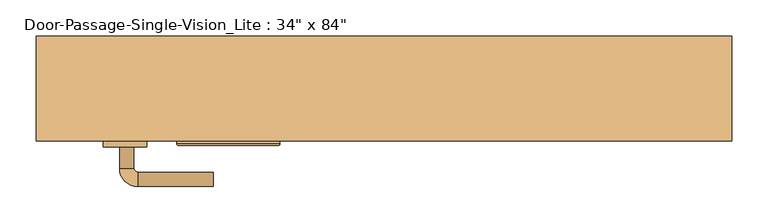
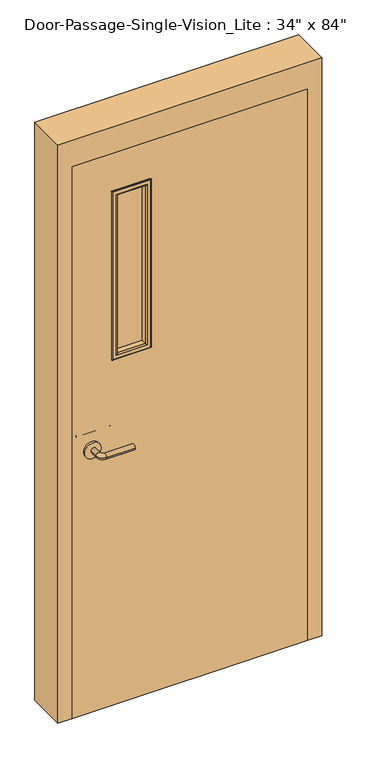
"""IFC4 building model written with IfcOpenShell, lengths in millimetres: door geometry."""

from ifc_helpers import new_model, si_unit, point, frame, frame_2d, origin, place, context, project, spatial, polyline, circle_curve, ellipse_curve, trimmed, segment, composite_curve, outline, extrude, faceted_brep, source, transform, mapped, element, save
from ifc_brep_helpers import plane_surface, cylinder_surface, revolved_surface, advanced_brep


def door_3e703145(model_context):
    return source(origin(), model_context, "Body", "SolidModel", [
        advanced_brep(
        [(-366.790625, -30.1, 1016.0), (-346.790625, -30.1, 1016.0), (-366.790625, -0.1, 1016.0), (-346.790625, -0.1, 1016.0), (-341.790625, 4.9, 1016.0), (-341.790625, 24.9, 1016.0), (-236.790625, 24.9, 1016.0), (-236.790625, 4.9, 1016.0)],
        [
            (0, 1, circle_curve(frame((-356.790625, -30.1, 1016.0), z_axis=(0.0, -1.0, 0.0), x_axis=(1.0, 0.0, 0.0)), 10.0)),
            (1, 0, circle_curve(frame((-356.790625, -30.1, 1016.0), z_axis=(0.0, -1.0, 0.0), x_axis=(1.0, 0.0, 0.0)), 10.0)),
            (0, 2),
            (2, 3, circle_curve(frame((-356.790625, -0.1, 1016.0), z_axis=(0.0, -1.0, 0.0), x_axis=(1.0, 0.0, 0.0)), 10.0)),
            (3, 1),
            (3, 2, circle_curve(frame((-356.790625, -0.1, 1016.0), z_axis=(0.0, -1.0, 0.0), x_axis=(1.0, 0.0, 0.0)), 10.0)),
            (4, 3, circle_curve(frame((-341.790625, -0.1, 1016.0), z_axis=(0.0, 0.0, 1.0), x_axis=(-1.0, 0.0, 0.0)), 5.0)),
            (2, 5, circle_curve(frame((-341.790625, -0.1, 1016.0), z_axis=(0.0, 0.0, -1.0), x_axis=(-1.0, 0.0, 0.0)), 25.0)),
            (5, 4, circle_curve(frame((-341.790625, 14.9, 1016.0), z_axis=(-1.0, 0.0, 0.0), x_axis=(0.0, -1.0, 0.0)), 10.0)),
            (4, 5, circle_curve(frame((-341.790625, 14.9, 1016.0), z_axis=(-1.0, 0.0, 0.0), x_axis=(0.0, -1.0, 0.0)), 10.0)),
            (6, 7, circle_curve(frame((-236.790625, 14.9, 1016.0), z_axis=(1.0, 0.0, 0.0), x_axis=(0.0, -1.0, 0.0)), 10.0)),
            (7, 6, circle_curve(frame((-236.790625, 14.9, 1016.0), z_axis=(1.0, 0.0, 0.0), x_axis=(0.0, -1.0, 0.0)), 10.0)),
            (5, 6),
            (7, 4),
        ],
        [
            plane_surface(frame((-356.790625, -30.1, 1016.0), z_axis=(0.0, -1.0, 0.0), x_axis=(0.0, 0.0, 1.0))),
            cylinder_surface(frame((-356.790625, -30.1, 1016.0), z_axis=(0.0, -1.0, 0.0), x_axis=(1.0, 0.0, 0.0)), 10.0),
            revolved_surface(trimmed(ellipse_curve(frame((-356.790625, -0.1, 1016.0), z_axis=(0.0, -1.0, 0.0), x_axis=(1.0, 0.0, 0.0)), 10.0, 10.0), [point((-366.790625, -0.1, 1016.0))], [point((-346.790625, -0.1, 1016.0))], True, "CARTESIAN"), (-341.790625, -0.1, 1016.0), (0.0, 0.0, -1.0)),
            revolved_surface(trimmed(ellipse_curve(frame((-356.790625, -0.1, 1016.0), z_axis=(0.0, -1.0, 0.0), x_axis=(1.0, 0.0, 0.0)), 10.0, 10.0), [point((-346.790625, -0.1, 1016.0))], [point((-366.790625, -0.1, 1016.0))], True, "CARTESIAN"), (-341.790625, -0.1, 1016.0), (0.0, 0.0, -1.0)),
            plane_surface(frame((-236.790625, 14.9, 1016.0), z_axis=(1.0, 0.0, 0.0), x_axis=(0.0, 0.0, 1.0))),
            cylinder_surface(frame((-341.790625, 14.9, 1016.0), z_axis=(-1.0, 0.0, 0.0), x_axis=(0.0, -1.0, 0.0)), 10.0),
        ],
        [
            (0, [[1, 2]]),
            (1, [[-1, 3, 4, 5]]),
            (1, [[-2, -5, 6, -3]]),
            (2, [[7, -4, 8, 9]]),
            (3, [[-8, -6, -7, 10]]),
            (4, [[11, 12]]),
            (5, [[-9, 13, -12, 14]]),
            (5, [[-10, -14, -11, -13]]),
        ],
    ),
        extrude(outline(composite_curve([segment(trimmed(circle_curve(frame_2d((1016.0, -359.290625)), 30.0), [point((1016.0, -389.290625))], [point((1016.0, -329.290625))], False, "CARTESIAN"), True, "CONTINUOUS"), segment(trimmed(circle_curve(frame_2d((1016.0, -359.290625)), 30.0), [point((1016.0, -329.290625))], [point((1016.0, -389.290625))], False, "CARTESIAN"), True, "CONTINUOUS")], self_intersect=False)), frame((0.0, -38.1, 0.0), z_axis=(0.0, 1.0, 0.0), x_axis=(0.0, 0.0, 1.0)), (0.0, 0.0, 1.0), 8.0),
        advanced_brep(
        [(-366.790625, -90.55, 1016.0), (-346.790625, -90.55, 1016.0), (-346.790625, -120.55, 1016.0), (-366.790625, -120.55, 1016.0), (-341.790625, -125.55, 1016.0), (-341.790625, -145.55, 1016.0), (-236.790625, -145.55, 1016.0), (-236.790625, -125.55, 1016.0)],
        [
            (0, 1, circle_curve(frame((-356.790625, -90.55, 1016.0), z_axis=(0.0, 1.0, 0.0), x_axis=(1.0, 0.0, 0.0)), 10.0)),
            (1, 0, circle_curve(frame((-356.790625, -90.55, 1016.0), z_axis=(0.0, 1.0, 0.0), x_axis=(1.0, 0.0, 0.0)), 10.0)),
            (1, 2),
            (2, 3, circle_curve(frame((-356.790625, -120.55, 1016.0), z_axis=(0.0, 1.0, 0.0), x_axis=(1.0, 0.0, 0.0)), 10.0)),
            (3, 0),
            (3, 2, circle_curve(frame((-356.790625, -120.55, 1016.0), z_axis=(0.0, 1.0, 0.0), x_axis=(1.0, 0.0, 0.0)), 10.0)),
            (4, 5, circle_curve(frame((-341.790625, -135.55, 1016.0), z_axis=(-1.0, 0.0, 0.0), x_axis=(0.0, 1.0, 0.0)), 10.0)),
            (5, 3, circle_curve(frame((-341.790625, -120.55, 1016.0), z_axis=(0.0, 0.0, -1.0), x_axis=(-1.0, 0.0, 0.0)), 25.0)),
            (2, 4, circle_curve(frame((-341.790625, -120.55, 1016.0), z_axis=(0.0, 0.0, 1.0), x_axis=(-1.0, 0.0, 0.0)), 5.0)),
            (5, 4, circle_curve(frame((-341.790625, -135.55, 1016.0), z_axis=(-1.0, 0.0, 0.0), x_axis=(0.0, 1.0, 0.0)), 10.0)),
            (6, 7, circle_curve(frame((-236.790625, -135.55, 1016.0), z_axis=(1.0, 0.0, 0.0), x_axis=(0.0, 1.0, 0.0)), 10.0)),
            (7, 6, circle_curve(frame((-236.790625, -135.55, 1016.0), z_axis=(1.0, 0.0, 0.0), x_axis=(0.0, 1.0, 0.0)), 10.0)),
            (4, 7),
            (6, 5),
        ],
        [
            plane_surface(frame((-356.790625, -90.55, 1016.0), z_axis=(0.0, 1.0, 0.0), x_axis=(0.0, 0.0, 1.0))),
            cylinder_surface(frame((-356.790625, -90.55, 1016.0), z_axis=(0.0, 1.0, 0.0), x_axis=(1.0, 0.0, 0.0)), 10.0),
            revolved_surface(trimmed(ellipse_curve(frame((-356.790625, -120.55, 1016.0), z_axis=(0.0, -1.0, 0.0), x_axis=(1.0, 0.0, 0.0)), 10.0, 10.0), [point((-366.790625, -120.55, 1016.0))], [point((-346.790625, -120.55, 1016.0))], True, "CARTESIAN"), (-341.790625, -120.55, 1016.0), (0.0, 0.0, -1.0)),
            revolved_surface(trimmed(ellipse_curve(frame((-356.790625, -120.55, 1016.0), z_axis=(0.0, -1.0, 0.0), x_axis=(1.0, 0.0, 0.0)), 10.0, 10.0), [point((-346.790625, -120.55, 1016.0))], [point((-366.790625, -120.55, 1016.0))], True, "CARTESIAN"), (-341.790625, -120.55, 1016.0), (0.0, 0.0, -1.0)),
            plane_surface(frame((-236.790625, -135.55, 1016.0), z_axis=(1.0, 0.0, 0.0), x_axis=(0.0, 0.0, 1.0))),
            cylinder_surface(frame((-341.790625, -135.55, 1016.0), z_axis=(-1.0, 0.0, 0.0), x_axis=(0.0, 1.0, 0.0)), 10.0),
        ],
        [
            (0, [[1, 2]]),
            (1, [[3, 4, 5, -2]]),
            (1, [[-5, 6, -3, -1]]),
            (2, [[7, 8, -4, 9]]),
            (3, [[10, -9, -6, -8]]),
            (4, [[11, 12]]),
            (5, [[13, -11, 14, -7]]),
            (5, [[-14, -12, -13, -10]]),
        ],
    ),
        extrude(outline(composite_curve([segment(trimmed(circle_curve(frame_2d((1016.0, -359.290625)), 30.0), [point((1016.0, -389.290625))], [point((1016.0, -329.290625))], False, "CARTESIAN"), True, "CONTINUOUS"), segment(trimmed(circle_curve(frame_2d((1016.0, -359.290625)), 30.0), [point((1016.0, -329.290625))], [point((1016.0, -389.290625))], False, "CARTESIAN"), True, "CONTINUOUS")], self_intersect=False)), frame((0.0, -90.55, 0.0), z_axis=(0.0, 1.0, 0.0), x_axis=(0.0, 0.0, 1.0)), (0.0, 0.0, 1.0), 8.0),
        faceted_brep([(431.8, -33.3375, 0.0), (415.925, -33.3375, 0.0), (415.925, 14.2875, 0.0), (431.8, 14.2875, 0.0), (431.8, 63.5, 0.0), (482.6, 63.5, 0.0), (482.6, -82.55, 0.0), (431.8, -82.55, 0.0), (431.8, -82.55, 2133.6), (431.8, -33.3375, 2133.6), (482.6, -82.55, 2235.2), (-482.6, -82.55, 2235.2), (-482.6, -82.55, 0.0), (-431.8, -82.55, 0.0), (-431.8, -82.55, 2133.6), (482.6, 63.5, 2235.2), (431.8, 63.5, 2133.6), (-431.8, 63.5, 2133.6), (-431.8, 63.5, 0.0), (-482.6, 63.5, 0.0), (-482.6, 63.5, 2235.2), (431.8, 14.2875, 2133.6), (415.925, 14.2875, 2117.725), (-415.925, 14.2875, 2117.725), (-415.925, 14.2875, 0.0), (-431.8, 14.2875, 0.0), (-431.8, 14.2875, 2133.6), (415.925, -33.3375, 2117.725), (-431.8, -33.3375, 2133.6), (-431.8, -33.3375, 0.0), (-415.925, -33.3375, 0.0), (-415.925, -33.3375, 2117.725)], [[[0, 1, 2, 3, 4, 5, 6, 7]], [[7, 8, 9, 0]], [[6, 10, 11, 12, 13, 14, 8, 7]], [[5, 15, 10, 6]], [[4, 16, 17, 18, 19, 20, 15, 5]], [[3, 21, 16, 4]], [[2, 22, 23, 24, 25, 26, 21, 3]], [[1, 27, 22, 2]], [[0, 9, 28, 29, 30, 31, 27, 1]], [[8, 14, 28, 9]], [[16, 21, 26, 17]], [[22, 27, 31, 23]], [[12, 19, 18, 25, 24, 30, 29, 13]], [[13, 29, 28, 14]], [[11, 20, 19, 12]], [[17, 26, 25, 18]], [[23, 31, 30, 24]], [[15, 20, 11, 10]]]),
        extrude(outline(polyline([(2133.6, -431.8), (0.0, -431.8), (0.0, 431.8), (2133.6, 431.8), (2133.6, -431.8)]), holes=[polyline([(1981.2, -279.4), (1981.2, -152.4), (1346.2, -152.4), (1346.2, -279.4), (1981.2, -279.4)])]), frame((0.0, -82.55, 0.0), z_axis=(0.0, 1.0, 0.0), x_axis=(0.0, 0.0, 1.0)), (0.0, 0.0, 1.0), 44.45),
        extrude(outline(polyline([(-152.4, -57.15), (-152.4, -63.5), (-279.4, -63.5), (-279.4, -57.15), (-152.4, -57.15)])), frame((0.0, 0.0, 1346.2), z_axis=(0.0, 0.0, 1.0), x_axis=(1.0, 0.0, 0.0)), (0.0, 0.0, 1.0), 635.0),
        advanced_brep(
        [(-279.4, -57.15, 1346.2), (-279.4, -57.15, 1981.2), (-279.4, -38.1, 1981.2), (-279.4, -38.1, 1346.2), (-267.4, -37.1, 1358.2), (-267.4, -37.1, 1969.2), (-267.4, -57.15, 1969.2), (-267.4, -57.15, 1358.2), (-272.4, -32.1, 1353.2), (-272.4, -32.1, 1974.2), (-287.4, -34.1, 1338.2), (-287.4, -34.1, 1989.2), (-285.4, -32.1, 1987.2), (-285.4, -32.1, 1340.2), (-287.4, -38.1, 1338.2), (-287.4, -38.1, 1989.2), (-152.4, -57.15, 1981.2), (-152.4, -38.1, 1981.2), (-164.4, -37.1, 1969.2), (-164.4, -57.15, 1969.2), (-159.4, -32.1, 1974.2), (-144.4, -34.1, 1989.2), (-146.4, -32.1, 1987.2), (-144.4, -38.1, 1989.2), (-152.4, -57.15, 1346.2), (-152.4, -38.1, 1346.2), (-164.4, -37.1, 1358.2), (-164.4, -57.15, 1358.2), (-159.4, -32.1, 1353.2), (-144.4, -34.1, 1338.2), (-146.4, -32.1, 1340.2), (-144.4, -38.1, 1338.2)],
        [
            (0, 1),
            (1, 2),
            (2, 3),
            (3, 0),
            (4, 5),
            (5, 6),
            (6, 7),
            (7, 4),
            (8, 9),
            (9, 5, ellipse_curve(frame((-272.4, -37.1, 1974.2), z_axis=(-0.7071067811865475, 0.0, -0.7071067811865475), x_axis=(0.7071067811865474, 0.0, -0.7071067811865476)), 7.0710678, 5.0)),
            (4, 8, ellipse_curve(frame((-272.4, -37.1, 1353.2), z_axis=(-0.7071067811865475, 0.0, 0.7071067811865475), x_axis=(-0.7071067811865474, 0.0, -0.7071067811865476)), 7.0710678, 5.0)),
            (10, 11),
            (11, 12, ellipse_curve(frame((-285.4, -34.1, 1987.2), z_axis=(-0.7071067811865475, 0.0, -0.7071067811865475), x_axis=(0.7071067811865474, 0.0, -0.7071067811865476)), 2.8284271, 2.0)),
            (12, 13),
            (13, 10, ellipse_curve(frame((-285.4, -34.1, 1340.2), z_axis=(-0.7071067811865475, 0.0, 0.7071067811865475), x_axis=(-0.7071067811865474, 0.0, -0.7071067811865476)), 2.8284271, 2.0)),
            (14, 15),
            (15, 11),
            (10, 14),
            (1, 16),
            (16, 17),
            (17, 2),
            (5, 18),
            (18, 19),
            (19, 6),
            (9, 20),
            (20, 18, ellipse_curve(frame((-159.4, -37.1, 1974.2), z_axis=(-0.7071067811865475, 0.0, 0.7071067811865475), x_axis=(-0.7071067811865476, 0.0, -0.7071067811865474)), 7.0710678, 5.0)),
            (11, 21),
            (21, 22, ellipse_curve(frame((-146.4, -34.1, 1987.2), z_axis=(-0.7071067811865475, 0.0, 0.7071067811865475), x_axis=(-0.7071067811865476, 0.0, -0.7071067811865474)), 2.8284271, 2.0)),
            (22, 12),
            (15, 23),
            (23, 21),
            (16, 24),
            (24, 25),
            (25, 17),
            (18, 26),
            (26, 27),
            (27, 19),
            (20, 28),
            (28, 26, ellipse_curve(frame((-159.4, -37.1, 1353.2), z_axis=(0.7071067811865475, 0.0, 0.7071067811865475), x_axis=(-0.7071067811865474, 0.0, 0.7071067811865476)), 7.0710678, 5.0)),
            (21, 29),
            (29, 30, ellipse_curve(frame((-146.4, -34.1, 1340.2), z_axis=(0.7071067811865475, 0.0, 0.7071067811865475), x_axis=(-0.7071067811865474, 0.0, 0.7071067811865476)), 2.8284271, 2.0)),
            (30, 22),
            (23, 31),
            (31, 29),
            (14, 31),
            (25, 3),
            (24, 0),
            (27, 7),
            (26, 4),
            (28, 8),
            (30, 13),
            (29, 10),
        ],
        [
            plane_surface(frame((-279.4, -38.1, 1346.2), z_axis=(-1.0, 0.0, 0.0), x_axis=(0.0, 0.0, 1.0))),
            plane_surface(frame((-267.4, -57.15, 1358.2), z_axis=(1.0, 0.0, 0.0), x_axis=(0.0, 0.0, 1.0))),
            cylinder_surface(frame((-272.4, -37.1, 1346.2), z_axis=(0.0, 0.0, -1.0), x_axis=(-1.0, 0.0, 0.0)), 5.0),
            cylinder_surface(frame((-285.4, -34.1, 1346.2), z_axis=(0.0, 0.0, -1.0), x_axis=(-1.0, 0.0, 0.0)), 2.0),
            plane_surface(frame((-287.4, -34.1, 1338.2), z_axis=(-1.0, 0.0, 0.0), x_axis=(0.0, 0.0, 1.0))),
            plane_surface(frame((-279.4, -38.1, 1981.2), z_axis=(0.0, 0.0, 1.0), x_axis=(1.0, 0.0, 0.0))),
            plane_surface(frame((-267.4, -57.15, 1969.2), z_axis=(0.0, 0.0, -1.0), x_axis=(1.0, 0.0, 0.0))),
            cylinder_surface(frame((-279.4, -37.1, 1974.2), z_axis=(-1.0, 0.0, 0.0), x_axis=(0.0, 0.0, 1.0)), 5.0),
            cylinder_surface(frame((-279.4, -34.1, 1987.2), z_axis=(-1.0, 0.0, 0.0), x_axis=(0.0, 0.0, 1.0)), 2.0),
            plane_surface(frame((-287.4, -34.1, 1989.2), z_axis=(0.0, 0.0, 1.0), x_axis=(1.0, 0.0, 0.0))),
            plane_surface(frame((-152.4, -38.1, 1981.2), z_axis=(1.0, 0.0, 0.0), x_axis=(0.0, 0.0, -1.0))),
            plane_surface(frame((-164.4, -57.15, 1969.2), z_axis=(-1.0, 0.0, 0.0), x_axis=(0.0, 0.0, -1.0))),
            cylinder_surface(frame((-159.4, -37.1, 1981.2), z_axis=(0.0, 0.0, 1.0), x_axis=(1.0, 0.0, 0.0)), 5.0),
            cylinder_surface(frame((-146.4, -34.1, 1981.2), z_axis=(0.0, 0.0, 1.0), x_axis=(1.0, 0.0, 0.0)), 2.0),
            plane_surface(frame((-144.4, -34.1, 1989.2), z_axis=(1.0, 0.0, 0.0), x_axis=(0.0, 0.0, -1.0))),
            plane_surface(frame((-144.4, -38.1, 1338.2), z_axis=(0.0, -1.0, 0.0), x_axis=(-1.0, 0.0, 0.0))),
            plane_surface(frame((-152.4, -38.1, 1346.2), z_axis=(0.0, 0.0, -1.0), x_axis=(-1.0, 0.0, 0.0))),
            plane_surface(frame((-152.4, -57.15, 1346.2), z_axis=(0.0, -1.0, 0.0), x_axis=(-1.0, 0.0, 0.0))),
            plane_surface(frame((-164.4, -57.15, 1358.2), z_axis=(0.0, 0.0, 1.0), x_axis=(-1.0, 0.0, 0.0))),
            cylinder_surface(frame((-152.4, -37.1, 1353.2), z_axis=(1.0, 0.0, 0.0), x_axis=(0.0, 0.0, -1.0)), 5.0),
            plane_surface(frame((-159.4, -32.1, 1353.2), z_axis=(0.0, 1.0, 0.0), x_axis=(-1.0, 0.0, 0.0))),
            cylinder_surface(frame((-152.4, -34.1, 1340.2), z_axis=(1.0, 0.0, 0.0), x_axis=(0.0, 0.0, -1.0)), 2.0),
            plane_surface(frame((-144.4, -34.1, 1338.2), z_axis=(0.0, 0.0, -1.0), x_axis=(-1.0, 0.0, 0.0))),
        ],
        [
            (0, [[1, 2, 3, 4]]),
            (1, [[5, 6, 7, 8]]),
            (2, [[9, 10, -5, 11]]),
            (3, [[12, 13, 14, 15]]),
            (4, [[16, 17, -12, 18]]),
            (5, [[19, 20, 21, -2]]),
            (6, [[22, 23, 24, -6]]),
            (7, [[25, 26, -22, -10]]),
            (8, [[27, 28, 29, -13]]),
            (9, [[30, 31, -27, -17]]),
            (10, [[32, 33, 34, -20]]),
            (11, [[35, 36, 37, -23]]),
            (12, [[38, 39, -35, -26]]),
            (13, [[40, 41, 42, -28]]),
            (14, [[43, 44, -40, -31]]),
            (15, [[-16, 45, -43, -30], [-3, -21, -34, 46]]),
            (16, [[47, -4, -46, -33]]),
            (17, [[-1, -47, -32, -19], [-7, -24, -37, 48]]),
            (18, [[49, -8, -48, -36]]),
            (19, [[50, -11, -49, -39]]),
            (20, [[-14, -29, -42, 51], [-9, -50, -38, -25]]),
            (21, [[52, -15, -51, -41]]),
            (22, [[-45, -18, -52, -44]]),
        ],
    ),
        advanced_brep(
        [(-279.4, -63.5, 1981.2), (-279.4, -63.5, 1346.2), (-279.4, -82.55, 1346.2), (-279.4, -82.55, 1981.2), (-267.4, -83.55, 1969.2), (-267.4, -83.55, 1358.2), (-267.4, -63.5, 1358.2), (-267.4, -63.5, 1969.2), (-272.4, -88.55, 1974.2), (-272.4, -88.55, 1353.2), (-287.4, -86.55, 1989.2), (-287.4, -86.55, 1338.2), (-285.4, -88.55, 1340.2), (-285.4, -88.55, 1987.2), (-287.4, -82.55, 1989.2), (-287.4, -82.55, 1338.2), (-152.4, -63.5, 1346.2), (-152.4, -82.55, 1346.2), (-164.4, -83.55, 1358.2), (-164.4, -63.5, 1358.2), (-159.4, -88.55, 1353.2), (-144.4, -86.55, 1338.2), (-146.4, -88.55, 1340.2), (-144.4, -82.55, 1338.2), (-152.4, -63.5, 1981.2), (-152.4, -82.55, 1981.2), (-164.4, -83.55, 1969.2), (-164.4, -63.5, 1969.2), (-159.4, -88.55, 1974.2), (-144.4, -86.55, 1989.2), (-146.4, -88.55, 1987.2), (-144.4, -82.55, 1989.2)],
        [
            (0, 1),
            (1, 2),
            (2, 3),
            (3, 0),
            (4, 5),
            (5, 6),
            (6, 7),
            (7, 4),
            (8, 9),
            (9, 5, ellipse_curve(frame((-272.4, -83.55, 1353.2), z_axis=(-0.7071067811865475, 0.0, 0.7071067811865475), x_axis=(0.7071067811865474, 0.0, 0.7071067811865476)), 7.0710678, 5.0)),
            (4, 8, ellipse_curve(frame((-272.4, -83.55, 1974.2), z_axis=(-0.7071067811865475, 0.0, -0.7071067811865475), x_axis=(-0.7071067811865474, 0.0, 0.7071067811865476)), 7.0710678, 5.0)),
            (10, 11),
            (11, 12, ellipse_curve(frame((-285.4, -86.55, 1340.2), z_axis=(-0.7071067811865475, 0.0, 0.7071067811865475), x_axis=(0.7071067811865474, 0.0, 0.7071067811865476)), 2.8284271, 2.0)),
            (12, 13),
            (13, 10, ellipse_curve(frame((-285.4, -86.55, 1987.2), z_axis=(-0.7071067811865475, 0.0, -0.7071067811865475), x_axis=(-0.7071067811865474, 0.0, 0.7071067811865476)), 2.8284271, 2.0)),
            (14, 15),
            (15, 11),
            (10, 14),
            (1, 16),
            (16, 17),
            (17, 2),
            (5, 18),
            (18, 19),
            (19, 6),
            (9, 20),
            (20, 18, ellipse_curve(frame((-159.4, -83.55, 1353.2), z_axis=(-0.7071067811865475, 0.0, -0.7071067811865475), x_axis=(-0.7071067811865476, 0.0, 0.7071067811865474)), 7.0710678, 5.0)),
            (11, 21),
            (21, 22, ellipse_curve(frame((-146.4, -86.55, 1340.2), z_axis=(-0.7071067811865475, 0.0, -0.7071067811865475), x_axis=(-0.7071067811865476, 0.0, 0.7071067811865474)), 2.8284271, 2.0)),
            (22, 12),
            (15, 23),
            (23, 21),
            (16, 24),
            (24, 25),
            (25, 17),
            (18, 26),
            (26, 27),
            (27, 19),
            (20, 28),
            (28, 26, ellipse_curve(frame((-159.4, -83.55, 1974.2), z_axis=(0.7071067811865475, 0.0, -0.7071067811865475), x_axis=(-0.7071067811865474, 0.0, -0.7071067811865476)), 7.0710678, 5.0)),
            (21, 29),
            (29, 30, ellipse_curve(frame((-146.4, -86.55, 1987.2), z_axis=(0.7071067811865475, 0.0, -0.7071067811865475), x_axis=(-0.7071067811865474, 0.0, -0.7071067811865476)), 2.8284271, 2.0)),
            (30, 22),
            (23, 31),
            (31, 29),
            (14, 31),
            (25, 3),
            (24, 0),
            (27, 7),
            (26, 4),
            (28, 8),
            (30, 13),
            (29, 10),
        ],
        [
            plane_surface(frame((-279.4, -82.55, 1981.2), z_axis=(-1.0, 0.0, 0.0), x_axis=(0.0, 0.0, -1.0))),
            plane_surface(frame((-267.4, -63.5, 1969.2), z_axis=(1.0, 0.0, 0.0), x_axis=(0.0, 0.0, -1.0))),
            cylinder_surface(frame((-272.4, -83.55, 1981.2), z_axis=(0.0, 0.0, 1.0), x_axis=(-1.0, 0.0, 0.0)), 5.0),
            cylinder_surface(frame((-285.4, -86.55, 1981.2), z_axis=(0.0, 0.0, 1.0), x_axis=(-1.0, 0.0, 0.0)), 2.0),
            plane_surface(frame((-287.4, -86.55, 1989.2), z_axis=(-1.0, 0.0, 0.0), x_axis=(0.0, 0.0, -1.0))),
            plane_surface(frame((-279.4, -82.55, 1346.2), z_axis=(0.0, 0.0, -1.0), x_axis=(1.0, 0.0, 0.0))),
            plane_surface(frame((-267.4, -63.5, 1358.2), z_axis=(0.0, 0.0, 1.0), x_axis=(1.0, 0.0, 0.0))),
            cylinder_surface(frame((-279.4, -83.55, 1353.2), z_axis=(-1.0, 0.0, 0.0), x_axis=(0.0, 0.0, -1.0)), 5.0),
            cylinder_surface(frame((-279.4, -86.55, 1340.2), z_axis=(-1.0, 0.0, 0.0), x_axis=(0.0, 0.0, -1.0)), 2.0),
            plane_surface(frame((-287.4, -86.55, 1338.2), z_axis=(0.0, 0.0, -1.0), x_axis=(1.0, 0.0, 0.0))),
            plane_surface(frame((-152.4, -82.55, 1346.2), z_axis=(1.0, 0.0, 0.0), x_axis=(0.0, 0.0, 1.0))),
            plane_surface(frame((-164.4, -63.5, 1358.2), z_axis=(-1.0, 0.0, 0.0), x_axis=(0.0, 0.0, 1.0))),
            cylinder_surface(frame((-159.4, -83.55, 1346.2), z_axis=(0.0, 0.0, -1.0), x_axis=(1.0, 0.0, 0.0)), 5.0),
            cylinder_surface(frame((-146.4, -86.55, 1346.2), z_axis=(0.0, 0.0, -1.0), x_axis=(1.0, 0.0, 0.0)), 2.0),
            plane_surface(frame((-144.4, -86.55, 1338.2), z_axis=(1.0, 0.0, 0.0), x_axis=(0.0, 0.0, 1.0))),
            plane_surface(frame((-144.4, -82.55, 1989.2), z_axis=(0.0, 1.0, 0.0), x_axis=(-1.0, 0.0, 0.0))),
            plane_surface(frame((-152.4, -82.55, 1981.2), z_axis=(0.0, 0.0, 1.0), x_axis=(-1.0, 0.0, 0.0))),
            plane_surface(frame((-152.4, -63.5, 1981.2), z_axis=(0.0, 1.0, 0.0), x_axis=(-1.0, 0.0, 0.0))),
            plane_surface(frame((-164.4, -63.5, 1969.2), z_axis=(0.0, 0.0, -1.0), x_axis=(-1.0, 0.0, 0.0))),
            cylinder_surface(frame((-152.4, -83.55, 1974.2), z_axis=(1.0, 0.0, 0.0), x_axis=(0.0, 0.0, 1.0)), 5.0),
            plane_surface(frame((-159.4, -88.55, 1974.2), z_axis=(0.0, -1.0, 0.0), x_axis=(-1.0, 0.0, 0.0))),
            cylinder_surface(frame((-152.4, -86.55, 1987.2), z_axis=(1.0, 0.0, 0.0), x_axis=(0.0, 0.0, 1.0)), 2.0),
            plane_surface(frame((-144.4, -86.55, 1989.2), z_axis=(0.0, 0.0, 1.0), x_axis=(-1.0, 0.0, 0.0))),
        ],
        [
            (0, [[1, 2, 3, 4]]),
            (1, [[5, 6, 7, 8]]),
            (2, [[9, 10, -5, 11]]),
            (3, [[12, 13, 14, 15]]),
            (4, [[16, 17, -12, 18]]),
            (5, [[19, 20, 21, -2]]),
            (6, [[22, 23, 24, -6]]),
            (7, [[25, 26, -22, -10]]),
            (8, [[27, 28, 29, -13]]),
            (9, [[30, 31, -27, -17]]),
            (10, [[32, 33, 34, -20]]),
            (11, [[35, 36, 37, -23]]),
            (12, [[38, 39, -35, -26]]),
            (13, [[40, 41, 42, -28]]),
            (14, [[43, 44, -40, -31]]),
            (15, [[-16, 45, -43, -30], [-3, -21, -34, 46]]),
            (16, [[47, -4, -46, -33]]),
            (17, [[-1, -47, -32, -19], [-7, -24, -37, 48]]),
            (18, [[49, -8, -48, -36]]),
            (19, [[50, -11, -49, -39]]),
            (20, [[-14, -29, -42, 51], [-9, -50, -38, -25]]),
            (21, [[52, -15, -51, -41]]),
            (22, [[-45, -18, -52, -44]]),
        ],
    ),
    ])


if __name__ == "__main__":
    model = new_model("IFC4")
    model_context = context("Model", 3, world=origin())
    ifc_project = project(units=[si_unit("LENGTHUNIT", "METRE", prefix="MILLI")], contexts=[model_context])
    site = spatial("IfcSite", under=ifc_project)
    building = spatial("IfcBuilding", under=site)
    placement = place(None, origin())
    door_shape = door_3e703145(model_context)
    element("IfcDoor", 1, ObjectType="Door-Passage-Single-Vision_Lite : 34\" x 84\"", at=placement, inside=building, context=model_context, shape_type="MappedRepresentation", body=[
        mapped(door_shape, transform((0.0, 0.0, 0.0), x_axis=(1.0, 0.0, 0.0), y_axis=(0.0, 1.0, 0.0), z_axis=(0.0, 0.0, 1.0))),
    ])
    save(model, "model.ifc")
